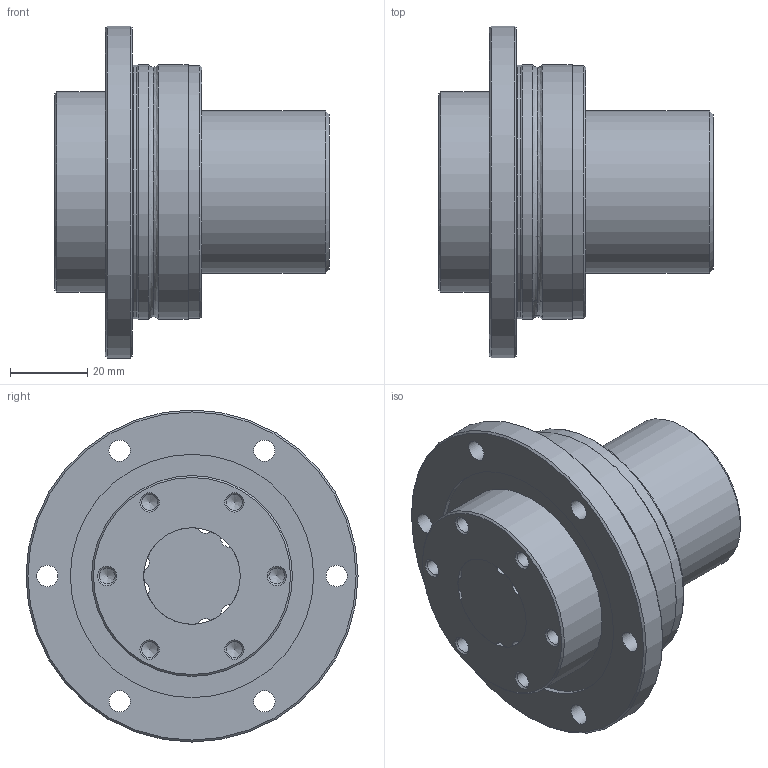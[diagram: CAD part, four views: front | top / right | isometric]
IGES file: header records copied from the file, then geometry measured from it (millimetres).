
Start section: Data from Parasolid IGES Translator 26.0.171, Copyright(c) 2006 Siemens PLM Software. All Rights Reserved.
Global section: file name: LTR25A+71L(0_0).igs; native system: By Siemens PLM Incorporated; preprocessor: XPlus GENERIC/IGES 26.0.171; author: Noname; organization: Noname; date: 20240528.075213; units: millimetre
Bounding box: 71 x 86 x 86 mm (x, y, z)
Surface area: 68055.6 mm2 (no closed solid volume)
Topology: 0 solids, 0 shells, 127 faces, 590 edges, 496 vertices
Faces by surface type: revolution 105, extrusion 22
